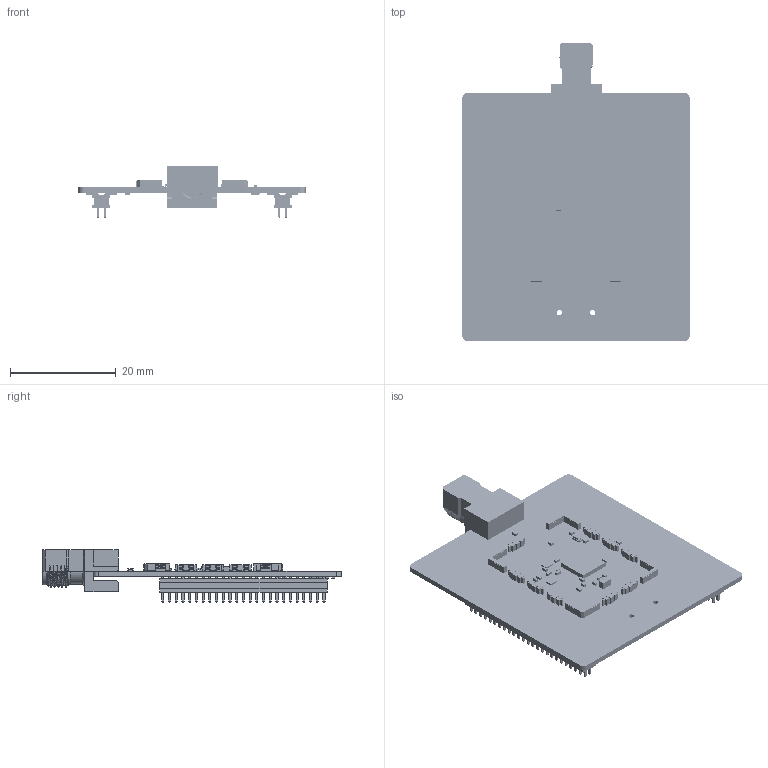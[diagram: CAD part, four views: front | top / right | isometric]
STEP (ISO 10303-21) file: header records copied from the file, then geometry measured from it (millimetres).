
FILE_DESCRIPTION(('Open CASCADE Model'),'2;1');
FILE_NAME('Open CASCADE Shape Model','2025-03-26T15:13:54',('Author'),( 'Open CASCADE'),'Open CASCADE STEP processor 7.5','Open CASCADE 7.5' ,'Unknown');
FILE_SCHEMA(('AUTOMOTIVE_DESIGN { 1 0 10303 214 1 1 1 1 }'));
Length unit declared in the file: millimetre
Products named in the file (127): PCB; Board; Open CASCADE STEP translator 7.5 3.1.1; SB2; R0201; 7260974784; Extruded; C7; Cap_Murata_GJM1551C1H7R0DB01D_eec; body; side; Murata; C5; IPD; 7260450128; SC13; Shield clip s0951-46; 7260971264; SC12; 7260969424; SC11; SC10; SC9; SB10; R0402; 7260453088; SB7; X1; 7260975344; 7260975264; 7260975184; X2; User Library-NX1612SA; 7260972784; 7260972624; U1; 7260973584; 7260973424; 7260973184; Cylinder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
Assembly tree (183 placements, depth 5):
  PCB
    Board
      Open CASCADE STEP translator 7.5 3.1.1
    SB2
      R0201
      7260974784
        Extruded
    C7
      Cap_Murata_GJM1551C1H7R0DB01D_eec
        body
        side  x2
        Murata
    C5
      Cap_Murata_GJM1551C1H7R0DB01D_eec
        body
        side  x2
        Murata
    IPD
      7260450128
        Extruded
    SC13
      Shield clip s0951-46
      7260971264
        Extruded
    SC12
      Shield clip s0951-46
      7260969424
        Extruded
    SC11
      Shield clip s0951-46
      7260969424
        Extruded
    SC10
      Shield clip s0951-46
      7260969424
        Extruded
    SC9
      Shield clip s0951-46
      7260969424
        Extruded
    SB10
      R0402
      7260453088
        Extruded
    SB7
      R0402
      7260453088
        Extruded
    X1
      7260975344
        Extruded
      7260975264
        Extruded
      7260975184
        Extruded
    X2
      User Library-NX1612SA
      7260972784
        Extruded
      7260972624
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Bounding box: 43 x 56.55 x 9.92 mm (x, y, z)
Volume: 3682.3 mm3; surface area: 8859.9 mm2
Topology: 184 solids, 184 shells, 13694 faces, 35021 edges, 21304 vertices
Faces by surface type: plane 7090, bspline 2855, cylinder 2823, sphere 764, torus 156, cone 6
Full cylindrical faces by diameter (mm): 0.03 x44, 0.5 x2, 0.991 x1, 1 x2, 4.674 x1, 5.08 x1, 5.385 x1
Entity records: 129776 total; most frequent: CARTESIAN_POINT 34607, ORIENTED_EDGE 17928, DIRECTION 16026, EDGE_CURVE 8964, LINE 6660, VECTOR 6660, VERTEX_POINT 5680, AXIS2_PLACEMENT_3D 4683
